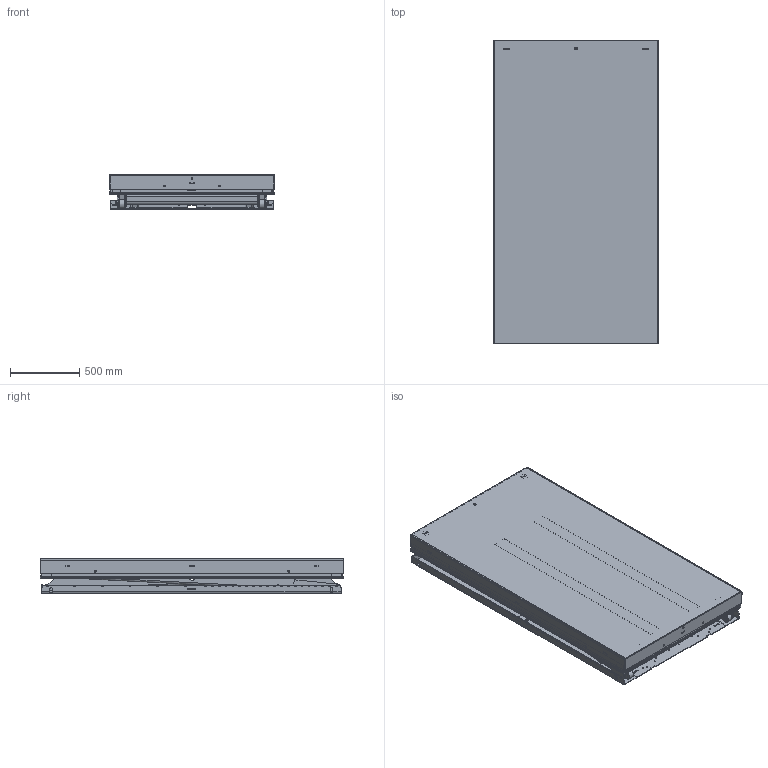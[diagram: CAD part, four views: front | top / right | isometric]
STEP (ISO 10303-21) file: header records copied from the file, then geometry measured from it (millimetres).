
FILE_DESCRIPTION(/* description */ ('Tvärförbindning med gavel'),/* implementation_level */ '2;1');
FILE_NAME(/* name */ '\\EDMOFILE01\Users$\JOHSO\Desktop\606524_Closed_Height.stp',/* time_stamp */ '2016-02-18T10:11:29+01:00',/* author */ ('JOHSO'),/* organization */ (''),/* preprocessor_version */ 'ST-DEVELOPER v15.6',/* originating_system */ 'Autodesk Inventor 2015',/* authorisation */ '');
FILE_SCHEMA (('AUTOMOTIVE_DESIGN { 1 0 10303 214 3 1 1 }'));
Products named in the file (36): 514601-4; 514601-1_Höger; 514601-1_Vänster; 514601-2; 44870; 45259; 514600; 82159-2112; 606529; 80060-768; 606522; 82159-2112_1; 603642; 82092-949; 606523; 36471; 45387; ISO 4014 - M8 x 40ISO; 41333-1600; 600196; 85955; 33048; 82021; 42289-1153; 42289-2173; 42330; 42331; 43481; ISO 4032 - M8ISO; 33990; 43476; 603398; 42508C; 33371-skel; 33371; 606524_TEMP
Assembly tree (79 placements, depth 4):
  606524_TEMP
    514600
      514601-4
      514601-1_Höger
      514601-1_Vänster
      514601-2  x2
      44870  x2
      45259  x2
    606522
      606529  x2
        82159-2112
      80060-768
    606523
      603642  x2
        82159-2112_1
      82092-949
    33371
      33371-skel
      36471
      45259  x2
      45387  x8
      ISO 4014 - M8 x 40ISO  x6
      41333-1600  x2
      600196  x2
      85955
    33048  x2
    82021  x2
    603398
      42289-1153  x2
      42289-2173  x2
      42330  x4
      42331  x4
      43481  x4
      ISO 4032 - M8ISO  x4
      33990  x2
      43476  x4
    42508C  x4
Bounding box: 1200 x 2200 x 250 mm (x, y, z)
Volume: 50590466.9 mm3; surface area: 19616894.1 mm2
Topology: 71 solids, 80 shells, 5144 faces, 14230 edges, 9311 vertices
Faces by surface type: plane 2611, cylinder 1797, bspline 486, cone 120, torus 82, sphere 48
Full cylindrical faces by diameter (mm): 0.474 x2, 1 x4, 3 x4, 3.141 x4, 3.2 x4, 4 x16, 4.3 x4, 4.9 x2, 5 x4, 5.2 x6, 5.3 x2, 5.55 x4, 6.647 x4, 7.4 x32, 7.6 x4, 8 x16, 8.5 x4, 10 x6, 10.2 x4, 10.5 x8, 11 x2, 11.63 x6, 12 x4, 12.5 x6, 13 x6, 13.835 x1, 14.5 x16, 16 x8, 18.5 x1, 19 x1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
Entity records: 96943 total; most frequent: CARTESIAN_POINT 24252, ORIENTED_EDGE 14966, DIRECTION 14212, EDGE_CURVE 7481, VERTEX_POINT 5019, AXIS2_PLACEMENT_3D 4791, LINE 4630, VECTOR 4630
